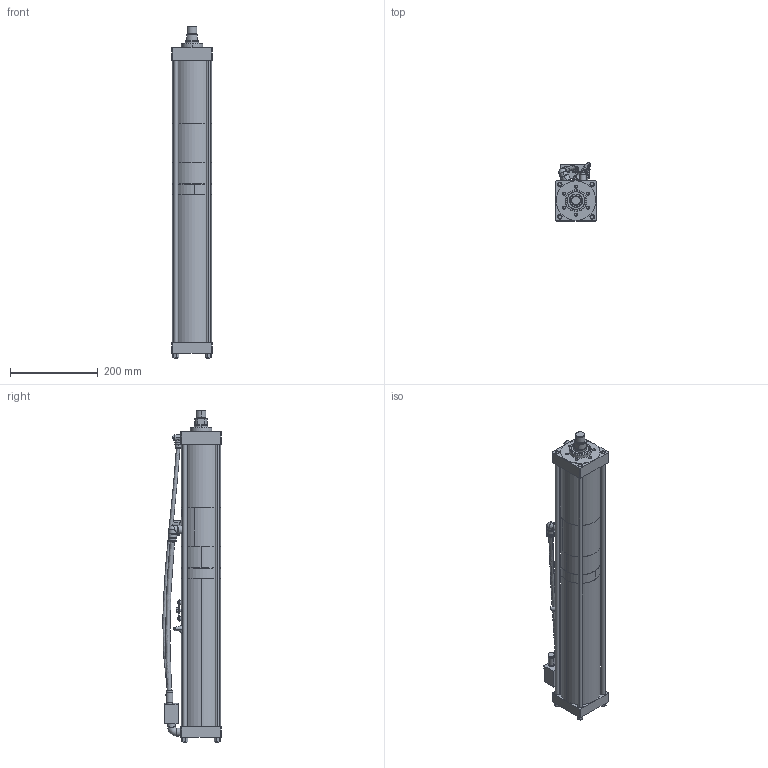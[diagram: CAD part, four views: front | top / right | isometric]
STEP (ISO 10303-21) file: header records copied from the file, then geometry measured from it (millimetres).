
FILE_DESCRIPTION (( 'STEP AP203' ), '1' );
FILE_NAME ('BS04-100-06S.step', '2025-07-31T09:39:33', ( 'Ranlm' ), ( '' ), 'SwSTEP 2.0', 'SolidWorks 2022', '' );
FILE_SCHEMA (( 'CONFIG_CONTROL_DESIGN' ));
Length unit declared in the file: millimetre
Products named in the file (1): BS04-100-06S
Bounding box: 92 x 133.21 x 758 mm (x, y, z)
Surface area: 412725 mm2 (no closed solid volume)
Topology: 0 solids, 43 shells, 447 faces, 1148 edges, 749 vertices
Faces by surface type: plane 199, cylinder 148, cone 72, torus 21, bspline 6, sphere 1
Entity records: 15125 total; most frequent: CARTESIAN_POINT 4016, DIRECTION 2476, ORIENTED_EDGE 1995, EDGE_CURVE 1142, AXIS2_PLACEMENT_3D 955, VERTEX_POINT 748, LINE 566, VECTOR 566
